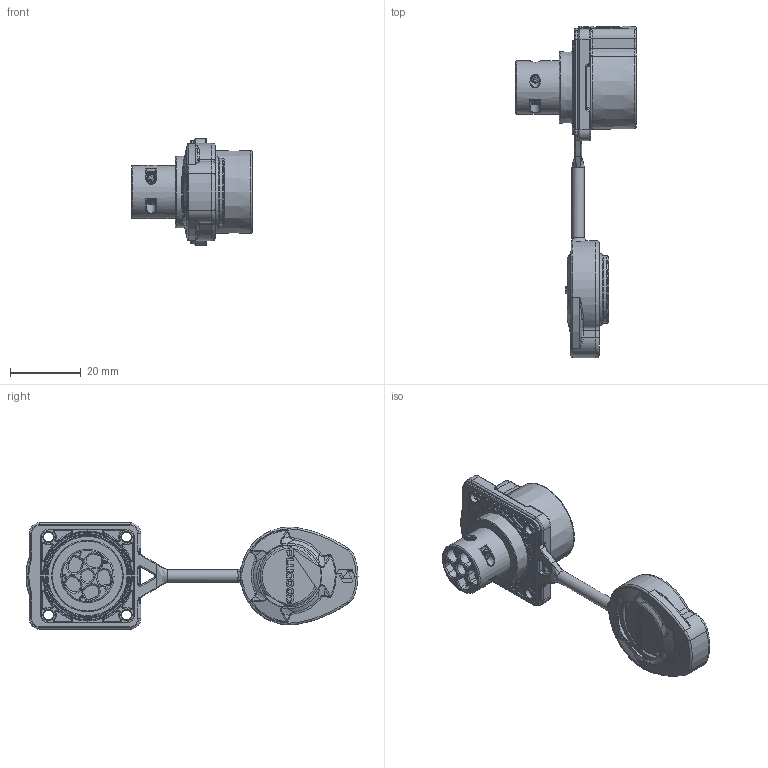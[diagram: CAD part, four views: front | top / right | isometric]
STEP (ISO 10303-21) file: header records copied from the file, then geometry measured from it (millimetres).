
FILE_DESCRIPTION (( 'STEP AP203' ), '1' );
FILE_NAME ('PLG20 5芯锁螺丝四孔插座.STEP', '2025-03-20T06:30:00', ( '' ), ( '' ), 'SwSTEP 2.0', 'SolidWorks 2024', '' );
FILE_SCHEMA (( 'CONFIG_CONTROL_DESIGN' ));
Length unit declared in the file: millimetre
Products named in the file (1): PLG20 5芯锁螺丝四孔插座
Bounding box: 34 x 93.64 x 30 mm (x, y, z)
Volume: 14389.4 mm3; surface area: 12555.8 mm2
Topology: 6 solids, 18 shells, 1690 faces, 4245 edges, 2655 vertices
Faces by surface type: plane 498, bspline 440, cylinder 405, torus 252, cone 85, sphere 10
Full cylindrical faces by diameter (mm): 1.061 x1, 2.088 x1, 2.2 x5, 2.6 x1, 2.8 x4, 3.15 x5, 3.2 x5, 3.3 x4, 3.5 x2, 6 x4, 15 x1, 16.5 x1, 19.1 x4, 22.3 x1, 23.5 x1, 25 x1
Entity records: 92654 total; most frequent: CARTESIAN_POINT 56541, ORIENTED_EDGE 8206, DIRECTION 6310, EDGE_CURVE 4103, VERTEX_POINT 2622, AXIS2_PLACEMENT_3D 2427, EDGE_LOOP 1899, FACE_OUTER_BOUND 1754
